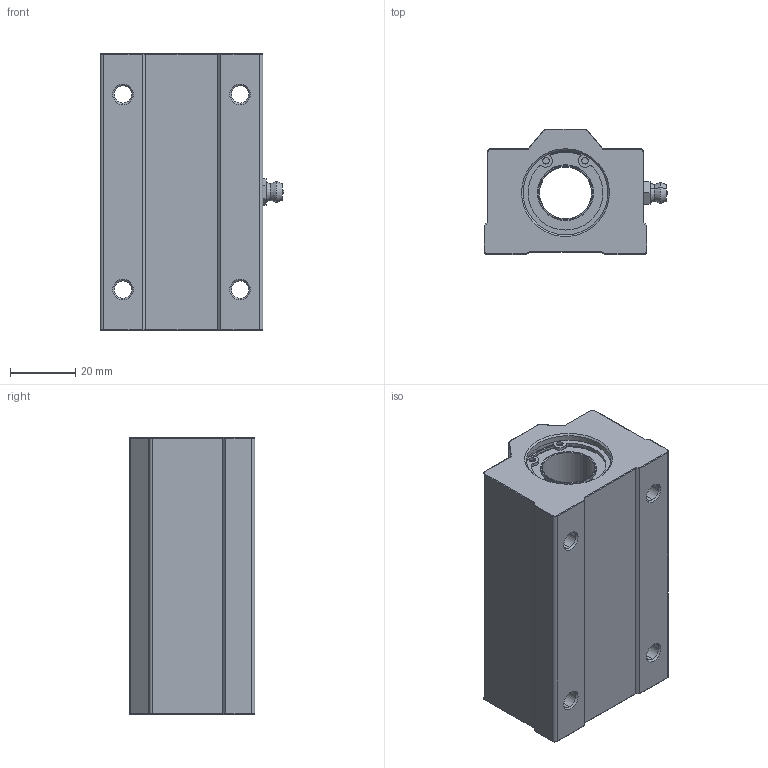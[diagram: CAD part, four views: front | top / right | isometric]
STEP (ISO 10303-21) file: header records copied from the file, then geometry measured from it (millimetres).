
FILE_DESCRIPTION (( 'STEP AP214' ), '1' );
FILE_NAME ('SC16LUU.STEP', '2020-09-28T05:56:56', ( '' ), ( '' ), 'SwSTEP 2.0', 'SolidWorks 2018', '' );
FILE_SCHEMA (( 'AUTOMOTIVE_DESIGN' ));
Length unit declared in the file: millimetre
Products named in the file (5): SC16LUU-04_5å4,5; SC16LUU-03; SC16LUU-02; SC16LUU-01; SC16LUU
Assembly tree (5 placements, depth 2):
  SC16LUU
    SC16LUU-01
    SC16LUU-02
    SC16LUU-03  x2
    SC16LUU-04_5å4,5
Bounding box: 56.45 x 38.6 x 85 mm (x, y, z)
Volume: 119160.6 mm3; surface area: 38125.3 mm2
Topology: 6 solids, 6 shells, 405 faces, 984 edges, 610 vertices
Faces by surface type: plane 161, cylinder 114, torus 48, bspline 38, cone 34, sphere 10
Entity records: 15191 total; most frequent: CARTESIAN_POINT 4235, DIRECTION 1874, ORIENTED_EDGE 1856, EDGE_CURVE 928, AXIS2_PLACEMENT_3D 664, VERTEX_POINT 577, LINE 546, VECTOR 546
